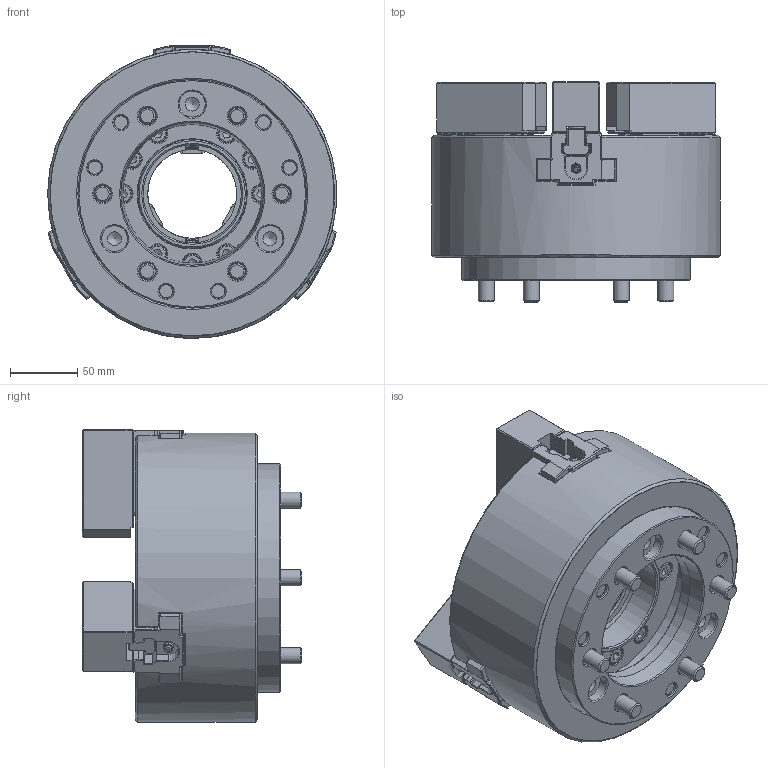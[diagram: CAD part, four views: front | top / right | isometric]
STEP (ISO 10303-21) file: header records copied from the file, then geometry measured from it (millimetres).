
FILE_DESCRIPTION(/* description */ (''),/* implementation_level */ '2;1');
FILE_NAME(/* name */ '\\Itserver\個人資料夾\柯玫如\8.網頁3D討論\1.中空油壓系列\1-1中空油壓夾頭\OPB系列\OPB-208\OPB-208-A6.stp',/* time_stamp */ '2024-11-21T16:13:31+08:00',/* author */ ('034'),/* organization */ (''),/* preprocessor_version */ 'ST-DEVELOPER v16.13',/* originating_system */ 'Autodesk Inventor 2018',/* authorisation */ '');
FILE_SCHEMA (('AUTOMOTIVE_DESIGN { 1 0 10303 214 3 1 1 }'));
Products named in the file (1): OPB-208-A6
Bounding box: 214.7 x 163.45 x 217.72 mm (x, y, z)
Volume: 3251268.3 mm3; surface area: 370264.5 mm2
Topology: 1 solids, 21 shells, 5440 faces, 15233 edges, 10030 vertices
Faces by surface type: plane 3332, cylinder 1248, bspline 563, cone 215, torus 67, sphere 15
Full cylindrical faces by diameter (mm): 5 x3, 5.1 x1, 5.5 x3, 6 x3, 6.8 x6, 9.5 x3, 10 x3, 10.3 x12, 12 x18, 13 x21, 13.5 x6, 14 x9, 18 x18, 19 x12, 19.3 x3, 20 x6, 66 x1, 69.5 x1, 70 x1, 70.2 x1, 73 x1, 75.5 x1, 76.343 x1, 81 x1, 103.2 x1, 131.007 x1, 170 x2, 171 x1, 215 x1
Entity records: 173219 total; most frequent: CARTESIAN_POINT 37324, ORIENTED_EDGE 29476, DIRECTION 26049, EDGE_CURVE 14738, LINE 10341, VECTOR 10341, VERTEX_POINT 9894, AXIS2_PLACEMENT_3D 7854
